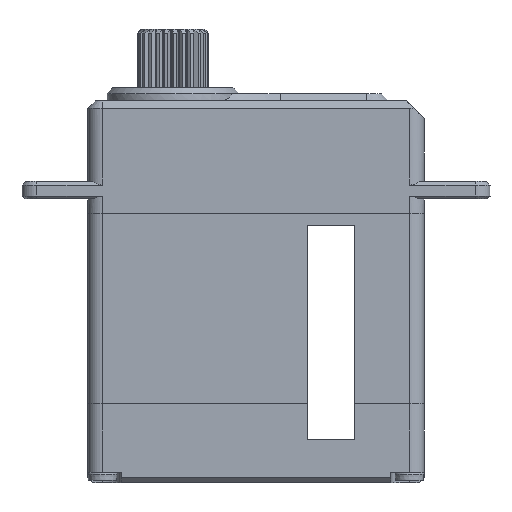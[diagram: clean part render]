
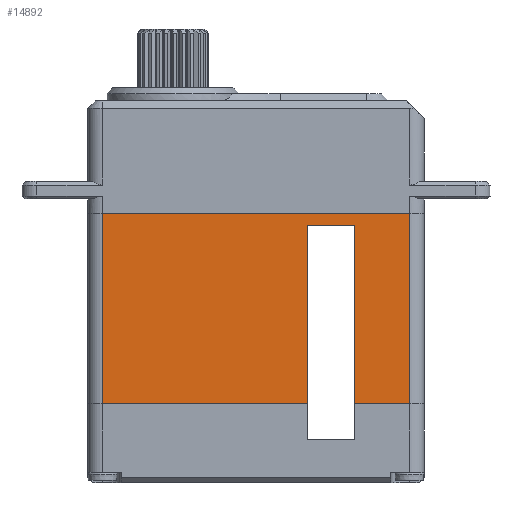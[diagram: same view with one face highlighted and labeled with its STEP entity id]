
A CAD part, front view. The second image highlights one B-rep face of the part: STEP entity #14892.
In plain terms, the highlighted planar face has unit normal (0, -1, 0).
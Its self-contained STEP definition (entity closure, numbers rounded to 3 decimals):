
#323 = CARTESIAN_POINT ( 'NONE',  ( 21.856, -16.022, -9.3 ) ) ;
#1218 = CARTESIAN_POINT ( 'NONE',  ( 42.856, -16.022, -9.3 ) ) ;
#1272 = CARTESIAN_POINT ( 'NONE',  ( 43.856, -16.022, 3.7 ) ) ;
#1493 = LINE ( 'NONE', #18482, #18053 ) ;
#1508 = CARTESIAN_POINT ( 'NONE',  ( 21.856, -16.022, 3.7 ) ) ;
#1569 = DIRECTION ( 'NONE',  ( 1., 0., 0. ) ) ;
#1941 = DIRECTION ( 'NONE',  ( 0., 0., -1. ) ) ;
#2507 = DIRECTION ( 'NONE',  ( 0., 0., -1. ) ) ;
#2970 = VERTEX_POINT ( 'NONE', #13837 ) ;
#3029 = VECTOR ( 'NONE', #1941, 1000. ) ;
#3148 = VERTEX_POINT ( 'NONE', #12690 ) ;
#3222 = DIRECTION ( 'NONE',  ( 0., 0., 1. ) ) ;
#3387 = DIRECTION ( 'NONE',  ( -1., 0., 0. ) ) ;
#4266 = EDGE_CURVE ( 'NONE', #15511, #15048, #14510, .T. ) ;
#4599 = LINE ( 'NONE', #14668, #8674 ) ;
#4823 = VECTOR ( 'NONE', #18579, 1000. ) ;
#5364 = FACE_OUTER_BOUND ( 'NONE', #16626, .T. ) ;
#5388 = PLANE ( 'NONE',  #12860 ) ;
#5406 = VECTOR ( 'NONE', #3387, 1000. ) ;
#5431 = ORIENTED_EDGE ( 'NONE', *, *, #16743, .T. ) ;
#5774 = CARTESIAN_POINT ( 'NONE',  ( 39.081, -16.022, -9.3 ) ) ;
#5796 = DIRECTION ( 'NONE',  ( -1., 0., 0. ) ) ;
#5868 = LINE ( 'NONE', #10350, #6782 ) ;
#6782 = VECTOR ( 'NONE', #11787, 1000. ) ;
#7431 = ORIENTED_EDGE ( 'NONE', *, *, #14134, .T. ) ;
#7458 = ORIENTED_EDGE ( 'NONE', *, *, #12173, .T. ) ;
#7586 = LINE ( 'NONE', #12961, #15598 ) ;
#7620 = ORIENTED_EDGE ( 'NONE', *, *, #4266, .T. ) ;
#7737 = VECTOR ( 'NONE', #3222, 1000. ) ;
#7792 = EDGE_CURVE ( 'NONE', #2970, #13525, #13814, .T. ) ;
#7822 = CARTESIAN_POINT ( 'NONE',  ( 42.856, -16.022, -9.3 ) ) ;
#8366 = DIRECTION ( 'NONE',  ( 0., 0., 1. ) ) ;
#8610 = EDGE_CURVE ( 'NONE', #9238, #15048, #11056, .T. ) ;
#8674 = VECTOR ( 'NONE', #1569, 1000. ) ;
#8989 = CARTESIAN_POINT ( 'NONE',  ( 39.081, -16.022, 3.7 ) ) ;
#9238 = VERTEX_POINT ( 'NONE', #1218 ) ;
#10350 = CARTESIAN_POINT ( 'NONE',  ( 32.356, -16.022, 3.7 ) ) ;
#10980 = ORIENTED_EDGE ( 'NONE', *, *, #15568, .F. ) ;
#11056 = LINE ( 'NONE', #7822, #5406 ) ;
#11131 = CARTESIAN_POINT ( 'NONE',  ( 35.881, -16.022, 2.915 ) ) ;
#11279 = ORIENTED_EDGE ( 'NONE', *, *, #7792, .T. ) ;
#11787 = DIRECTION ( 'NONE',  ( -1., 0., 0. ) ) ;
#11893 = CARTESIAN_POINT ( 'NONE',  ( 42.856, -16.022, 3.7 ) ) ;
#12173 = EDGE_CURVE ( 'NONE', #3148, #2970, #5868, .T. ) ;
#12690 = CARTESIAN_POINT ( 'NONE',  ( 42.856, -16.022, 3.7 ) ) ;
#12860 = AXIS2_PLACEMENT_3D ( 'NONE', #1272, #18545, #2507 ) ;
#12961 = CARTESIAN_POINT ( 'NONE',  ( 35.881, -16.022, -9.3 ) ) ;
#13422 = EDGE_CURVE ( 'NONE', #16695, #14523, #1493, .T. ) ;
#13525 = VERTEX_POINT ( 'NONE', #323 ) ;
#13814 = LINE ( 'NONE', #1508, #4823 ) ;
#13837 = CARTESIAN_POINT ( 'NONE',  ( 21.856, -16.022, 3.7 ) ) ;
#14134 = EDGE_CURVE ( 'NONE', #9238, #3148, #16201, .T. ) ;
#14510 = LINE ( 'NONE', #8989, #3029 ) ;
#14523 = VERTEX_POINT ( 'NONE', #11131 ) ;
#14589 = ORIENTED_EDGE ( 'NONE', *, *, #13422, .T. ) ;
#14668 = CARTESIAN_POINT ( 'NONE',  ( 32.391, -16.022, 2.915 ) ) ;
#14892 = ADVANCED_FACE ( 'NONE', ( #5364 ), #5388, .T. ) ;
#15048 = VERTEX_POINT ( 'NONE', #5774 ) ;
#15511 = VERTEX_POINT ( 'NONE', #18573 ) ;
#15568 = EDGE_CURVE ( 'NONE', #16695, #13525, #7586, .T. ) ;
#15598 = VECTOR ( 'NONE', #5796, 1000. ) ;
#15700 = CARTESIAN_POINT ( 'NONE',  ( 35.881, -16.022, -9.3 ) ) ;
#16075 = ORIENTED_EDGE ( 'NONE', *, *, #8610, .F. ) ;
#16201 = LINE ( 'NONE', #11893, #7737 ) ;
#16626 = EDGE_LOOP ( 'NONE', ( #14589, #5431, #7620, #16075, #7431, #7458, #11279, #10980 ) ) ;
#16695 = VERTEX_POINT ( 'NONE', #15700 ) ;
#16743 = EDGE_CURVE ( 'NONE', #14523, #15511, #4599, .T. ) ;
#18053 = VECTOR ( 'NONE', #8366, 1000. ) ;
#18482 = CARTESIAN_POINT ( 'NONE',  ( 35.881, -16.022, 3.7 ) ) ;
#18545 = DIRECTION ( 'NONE',  ( 0., -1., 0. ) ) ;
#18573 = CARTESIAN_POINT ( 'NONE',  ( 39.081, -16.022, 2.915 ) ) ;
#18579 = DIRECTION ( 'NONE',  ( 0., 0., -1. ) ) ;
